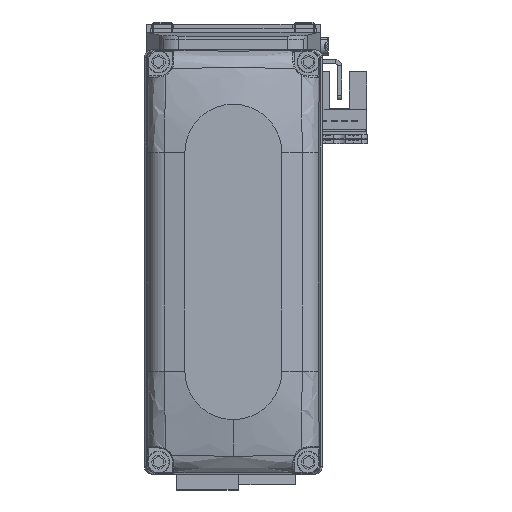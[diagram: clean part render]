
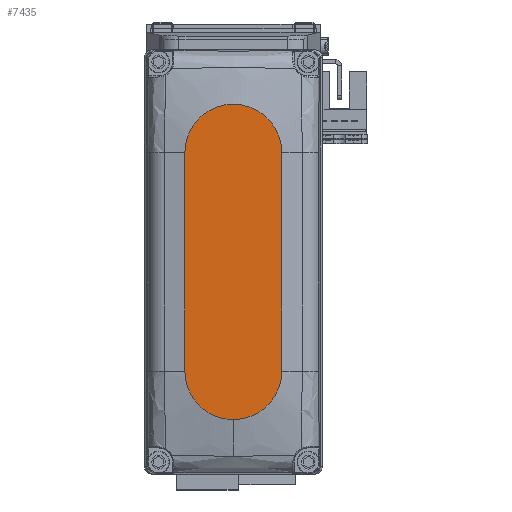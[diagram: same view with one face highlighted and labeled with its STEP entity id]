
A CAD part, top view. The second image highlights one B-rep face of the part: STEP entity #7435.
In plain terms, the highlighted planar face has unit normal (0, 0, 1).
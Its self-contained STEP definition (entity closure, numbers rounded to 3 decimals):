
#404 = VERTEX_POINT ( 'NONE', #27345 ) ;
#541 = EDGE_LOOP ( 'NONE', ( #21464, #25575, #4785, #29376, #35780 ) ) ;
#859 = AXIS2_PLACEMENT_3D ( 'NONE', #13397, #25756, #38157 ) ;
#1549 = CARTESIAN_POINT ( 'NONE',  ( -27., 12., 25. ) ) ;
#4310 = VERTEX_POINT ( 'NONE', #18282 ) ;
#4348 = VECTOR ( 'NONE', #18354, 1000. ) ;
#4785 = ORIENTED_EDGE ( 'NONE', *, *, #29338, .T. ) ;
#5261 = CARTESIAN_POINT ( 'NONE',  ( -27., 0., 25. ) ) ;
#5365 = DIRECTION ( 'NONE',  ( 1., 0., 0. ) ) ;
#5981 = CARTESIAN_POINT ( 'NONE',  ( -27., -12., 25. ) ) ;
#7435 = ADVANCED_FACE ( 'NONE', ( #25988 ), #38385, .T. ) ;
#8515 = AXIS2_PLACEMENT_3D ( 'NONE', #5261, #17633, #30001 ) ;
#8690 = CARTESIAN_POINT ( 'NONE',  ( -27., 12., 25. ) ) ;
#10578 = CARTESIAN_POINT ( 'NONE',  ( 0., 0., 25. ) ) ;
#11410 = AXIS2_PLACEMENT_3D ( 'NONE', #20795, #33169, #5365 ) ;
#12999 = CARTESIAN_POINT ( 'NONE',  ( 39., 0., 25. ) ) ;
#13397 = CARTESIAN_POINT ( 'NONE',  ( 27., 0., 25. ) ) ;
#13534 = EDGE_CURVE ( 'NONE', #404, #23892, #28858, .T. ) ;
#17633 = DIRECTION ( 'NONE',  ( 0., 0., 1. ) ) ;
#18282 = CARTESIAN_POINT ( 'NONE',  ( 27., 12., 25. ) ) ;
#18354 = DIRECTION ( 'NONE',  ( 1., 0., 0. ) ) ;
#18378 = CIRCLE ( 'NONE', #859, 12. ) ;
#19316 = VERTEX_POINT ( 'NONE', #34272 ) ;
#20795 = CARTESIAN_POINT ( 'NONE',  ( 27., 0., 25. ) ) ;
#21049 = DIRECTION ( 'NONE',  ( -1., 0., 0. ) ) ;
#21464 = ORIENTED_EDGE ( 'NONE', *, *, #29797, .T. ) ;
#22805 = EDGE_CURVE ( 'NONE', #39634, #19316, #25960, .T. ) ;
#22943 = DIRECTION ( 'NONE',  ( 0., 0., 1. ) ) ;
#23892 = VERTEX_POINT ( 'NONE', #12999 ) ;
#25575 = ORIENTED_EDGE ( 'NONE', *, *, #22805, .T. ) ;
#25606 = EDGE_CURVE ( 'NONE', #23892, #4310, #18378, .T. ) ;
#25756 = DIRECTION ( 'NONE',  ( 0., 0., 1. ) ) ;
#25960 = CIRCLE ( 'NONE', #8515, 12. ) ;
#25988 = FACE_OUTER_BOUND ( 'NONE', #541, .T. ) ;
#26613 = AXIS2_PLACEMENT_3D ( 'NONE', #10578, #22943, #35334 ) ;
#27345 = CARTESIAN_POINT ( 'NONE',  ( 27., -12., 25. ) ) ;
#28858 = CIRCLE ( 'NONE', #11410, 12. ) ;
#29338 = EDGE_CURVE ( 'NONE', #19316, #404, #33791, .T. ) ;
#29376 = ORIENTED_EDGE ( 'NONE', *, *, #13534, .T. ) ;
#29797 = EDGE_CURVE ( 'NONE', #4310, #39634, #36486, .T. ) ;
#30001 = DIRECTION ( 'NONE',  ( 1., 0., 0. ) ) ;
#33169 = DIRECTION ( 'NONE',  ( 0., 0., 1. ) ) ;
#33791 = LINE ( 'NONE', #5981, #4348 ) ;
#34191 = VECTOR ( 'NONE', #21049, 1000. ) ;
#34272 = CARTESIAN_POINT ( 'NONE',  ( -27., -12., 25. ) ) ;
#35334 = DIRECTION ( 'NONE',  ( 1., 0., 0. ) ) ;
#35780 = ORIENTED_EDGE ( 'NONE', *, *, #25606, .T. ) ;
#36486 = LINE ( 'NONE', #8690, #34191 ) ;
#38157 = DIRECTION ( 'NONE',  ( 1., 0., 0. ) ) ;
#38385 = PLANE ( 'NONE',  #26613 ) ;
#39634 = VERTEX_POINT ( 'NONE', #1549 ) ;
